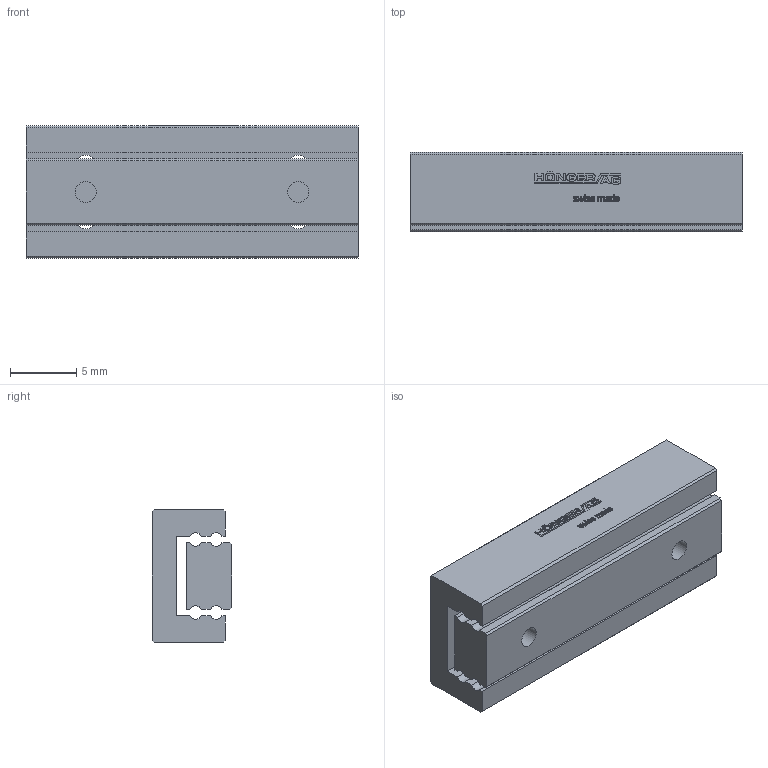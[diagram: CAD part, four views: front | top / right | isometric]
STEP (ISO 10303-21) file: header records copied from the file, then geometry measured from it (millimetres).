
FILE_DESCRIPTION(/* description */ ('STEP AP214'),/* implementation_level */ '2;1');
FILE_NAME(/* name */ 'MSK 5-25.15(0)',/* time_stamp */ '2025-04-16T16:48:52+02:00',/* author */ ('License CC BY-ND 4.0'),/* organization */ ('CADENAS'),/* preprocessor_version */ 'ST-DEVELOPER v19.3',/* originating_system */ 'PARTsolutions',/* authorisation */ ' ');
FILE_SCHEMA (('AUTOMOTIVE_DESIGN {1 0 10303 214 3 1 1}'));
Length unit declared in the file: millimetre
Products named in the file (3): MSK 5-25.15(0); MSK 5-25.15_1; MSK 5-25.15_2
Assembly tree (2 placements, depth 2):
  MSK 5-25.15(0)
    MSK 5-25.15_1
    MSK 5-25.15_2
Bounding box: 25 x 6 x 10 mm (x, y, z)
Volume: 1184.4 mm3; surface area: 1556.5 mm2
Topology: 2 solids, 2 shells, 513 faces, 1442 edges, 960 vertices
Faces by surface type: cylinder 306, plane 203, cone 4
Full cylindrical faces by diameter (mm): 1.567 x6
Entity records: 16849 total; most frequent: DIRECTION 3080, CARTESIAN_POINT 2908, ORIENTED_EDGE 2864, EDGE_CURVE 1432, AXIS2_PLACEMENT_3D 1132, VERTEX_POINT 960, LINE 816, VECTOR 816
